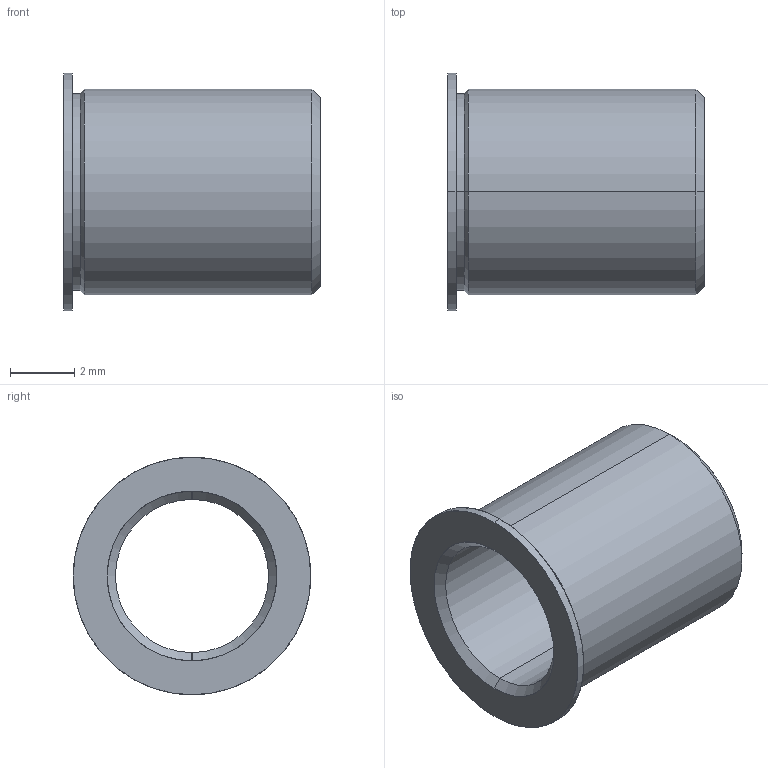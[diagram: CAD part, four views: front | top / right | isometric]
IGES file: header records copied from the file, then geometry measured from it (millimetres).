
Start section: SolidWorks IGES file using analytic representation for surfaces
Global section: file name: C:\Users\workpc\Desktop\KMA Solidworks\TS250-100 Series\TB187-100-313.IGS; native system: SolidWorks 2013; preprocessor: SolidWorks 2013; author: workpc; date: 130213.100010; units: inch
Bounding box: 7.95 x 7.37 x 7.37 mm (x, y, z)
Surface area: 324.1 mm2 (no closed solid volume)
Topology: 0 solids, 0 shells, 19 faces, 256 edges, 256 vertices
Faces by surface type: revolution 16, bspline 3
